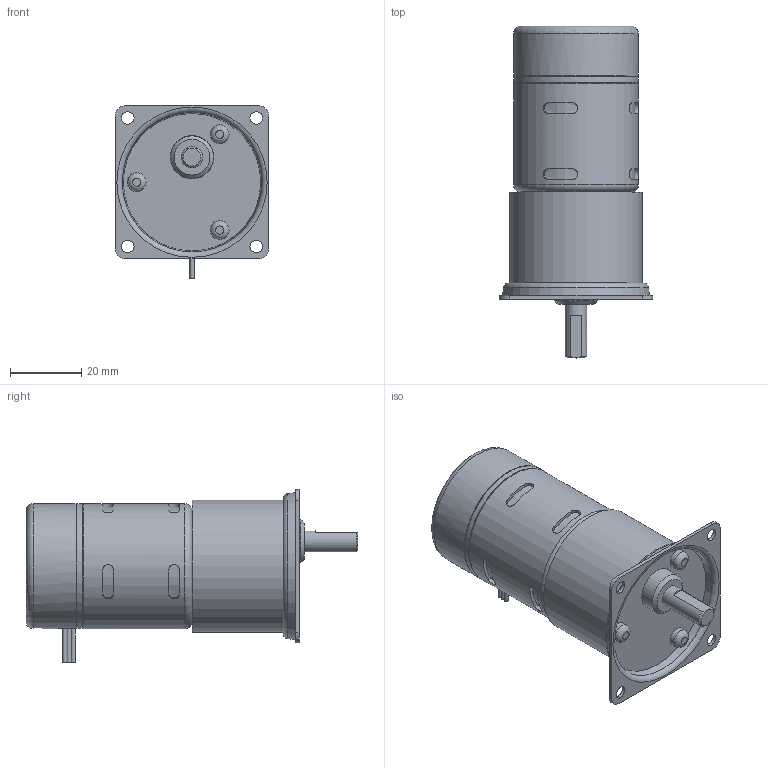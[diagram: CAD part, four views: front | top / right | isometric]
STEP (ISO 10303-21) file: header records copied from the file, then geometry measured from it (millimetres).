
FILE_DESCRIPTION((''),'2;1');
FILE_NAME('C:\Documents and Settings\SSEGAWA\デスクトップ\TP-3546B-PM-3.STP','2013-07-30T16:47:11',('SSEGAWA'),(''),'Autodesk Inventor 2010','Autodesk Inventor 2010','');
FILE_SCHEMA(('CONFIG_CONTROL_DESIGN'));
Length unit declared in the file: millimetre
Products named in the file (1): tp_3546bd_pm_3_Shrinkwrap_1
Bounding box: 43 x 93 x 48.5 mm (x, y, z)
Volume: 74715.5 mm3; surface area: 14759.2 mm2
Topology: 1 solids, 13 shells, 144 faces, 305 edges, 198 vertices
Faces by surface type: plane 62, cylinder 51, bspline 23, torus 4, cone 4
Full cylindrical faces by diameter (mm): 1.2 x2, 4 x3, 5.3 x3, 6 x1, 12 x1, 12.2 x1, 34.6 x1, 35 x3, 37 x1
Entity records: 4498 total; most frequent: CARTESIAN_POINT 1592, DIRECTION 573, ORIENTED_EDGE 474, AXIS2_PLACEMENT_3D 248, EDGE_CURVE 237, EDGE_LOOP 209, VERTEX_POINT 174, STYLED_ITEM 145
